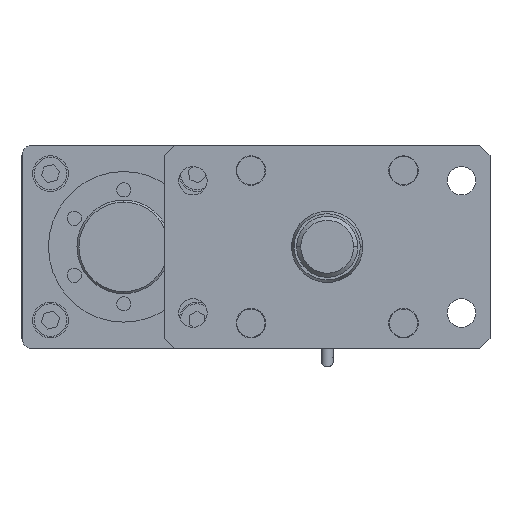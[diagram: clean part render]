
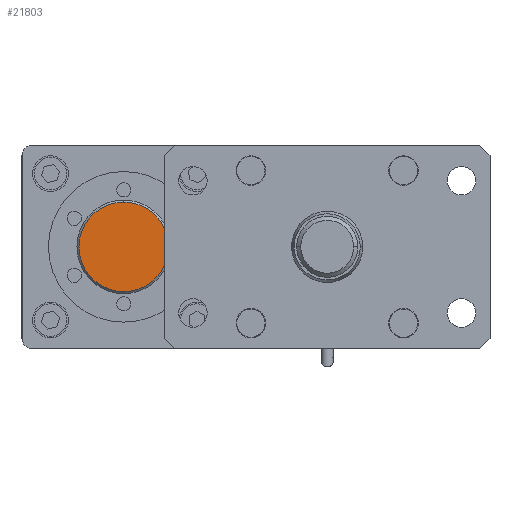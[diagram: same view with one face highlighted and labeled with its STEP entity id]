
A CAD part, front view. The second image highlights one B-rep face of the part: STEP entity #21803.
In plain terms, the highlighted planar face has unit normal (0, -1, 0).
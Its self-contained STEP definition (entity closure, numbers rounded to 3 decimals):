
#163 = DIRECTION ( 'NONE',  ( 0., -1., 0. ) ) ;
#2512 = EDGE_LOOP ( 'NONE', ( #7127, #2901 ) ) ;
#2522 = CIRCLE ( 'NONE', #21423, 22. ) ;
#2901 = ORIENTED_EDGE ( 'NONE', *, *, #2939, .T. ) ;
#2939 = EDGE_CURVE ( 'NONE', #5064, #12605, #7099, .T. ) ;
#4070 = FACE_OUTER_BOUND ( 'NONE', #2512, .T. ) ;
#5064 = VERTEX_POINT ( 'NONE', #8849 ) ;
#7099 = CIRCLE ( 'NONE', #12138, 22. ) ;
#7127 = ORIENTED_EDGE ( 'NONE', *, *, #14734, .T. ) ;
#8054 = CARTESIAN_POINT ( 'NONE',  ( -100., -145., 0. ) ) ;
#8581 = PLANE ( 'NONE',  #16854 ) ;
#8710 = DIRECTION ( 'NONE',  ( 0., -1., 0. ) ) ;
#8849 = CARTESIAN_POINT ( 'NONE',  ( -100., -145., -22. ) ) ;
#9743 = DIRECTION ( 'NONE',  ( 0., 0., -1. ) ) ;
#11983 = DIRECTION ( 'NONE',  ( 0., 0., -1. ) ) ;
#12138 = AXIS2_PLACEMENT_3D ( 'NONE', #8054, #19863, #9743 ) ;
#12605 = VERTEX_POINT ( 'NONE', #14963 ) ;
#14734 = EDGE_CURVE ( 'NONE', #12605, #5064, #2522, .T. ) ;
#14963 = CARTESIAN_POINT ( 'NONE',  ( -100., -145., 22. ) ) ;
#16854 = AXIS2_PLACEMENT_3D ( 'NONE', #20359, #163, #11983 ) ;
#18813 = CARTESIAN_POINT ( 'NONE',  ( -100., -145., 0. ) ) ;
#19863 = DIRECTION ( 'NONE',  ( 0., -1., 0. ) ) ;
#20359 = CARTESIAN_POINT ( 'NONE',  ( -100., -145., 0. ) ) ;
#20502 = DIRECTION ( 'NONE',  ( 0., 0., -1. ) ) ;
#21423 = AXIS2_PLACEMENT_3D ( 'NONE', #18813, #8710, #20502 ) ;
#21803 = ADVANCED_FACE ( 'NONE', ( #4070 ), #8581, .T. ) ;
